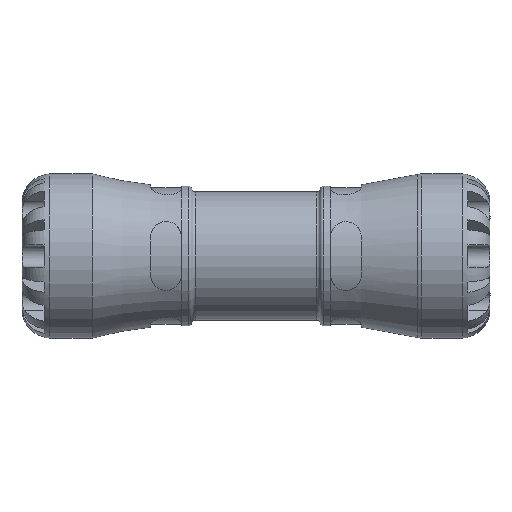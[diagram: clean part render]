
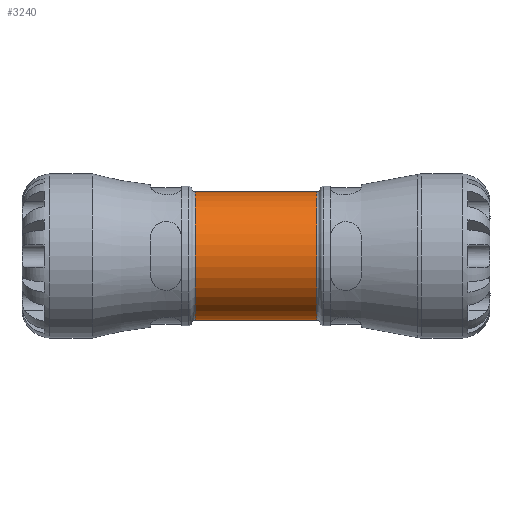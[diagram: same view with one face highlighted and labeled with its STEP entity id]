
A CAD part, front view. The second image highlights one B-rep face of the part: STEP entity #3240.
In plain terms, the highlighted cylindrical face has radius 18.33 mm (diameter 36.66 mm), a full revolution.
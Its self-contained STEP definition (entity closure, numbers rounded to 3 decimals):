
#467=FACE_BOUND('',#784,.T.);
#468=FACE_BOUND('',#785,.T.);
#510=CYLINDRICAL_SURFACE('',#3445,18.33);
#580=FACE_OUTER_BOUND('',#783,.T.);
#783=EDGE_LOOP('',(#2108));
#784=EDGE_LOOP('',(#2109));
#785=EDGE_LOOP('',(#2110));
#1026=B_SPLINE_CURVE_WITH_KNOTS('',3,(#4868,#4869,#4870,#4871,#4872,#4873,
#4874,#4875,#4876,#4877,#4878,#4879,#4880,#4881,#4882,#4883,#4884,#4885,
#4886,#4887,#4888,#4889),.UNSPECIFIED.,.T.,.F.,(4,1,1,1,1,1,1,1,1,1,1,1,
1,1,1,1,1,1,1,4),(-7.559,-7.289,-7.019,
-6.479,-5.94,-5.67,-5.4,
-4.86,-4.32,-3.96,-3.6,
-3.24,-2.88,-2.52,-2.16,
-1.62,-1.08,-0.54,-0.27,
0.),.UNSPECIFIED.);
#1158=CIRCLE('',#3446,18.33);
#1159=CIRCLE('',#3447,18.33);
#1331=VERTEX_POINT('',#4843);
#1334=VERTEX_POINT('',#4894);
#1335=VERTEX_POINT('',#4896);
#1638=EDGE_CURVE('',#1331,#1331,#1026,.T.);
#1640=EDGE_CURVE('',#1334,#1334,#1158,.T.);
#1641=EDGE_CURVE('',#1335,#1335,#1159,.T.);
#2108=ORIENTED_EDGE('',*,*,#1640,.F.);
#2109=ORIENTED_EDGE('',*,*,#1641,.F.);
#2110=ORIENTED_EDGE('',*,*,#1638,.F.);
#3240=ADVANCED_FACE('',(#580,#467,#468),#510,.T.);
#3445=AXIS2_PLACEMENT_3D('',#4893,#3826,#3827);
#3446=AXIS2_PLACEMENT_3D('',#4895,#3828,#3829);
#3447=AXIS2_PLACEMENT_3D('',#4897,#3830,#3831);
#3826=DIRECTION('center_axis',(1.,0.,0.));
#3827=DIRECTION('ref_axis',(0.,1.,0.));
#3828=DIRECTION('center_axis',(1.,0.,0.));
#3829=DIRECTION('ref_axis',(0.,1.,0.));
#3830=DIRECTION('center_axis',(-1.,0.,0.));
#3831=DIRECTION('ref_axis',(0.,1.,0.));
#4843=CARTESIAN_POINT('',(0.,13.133,-12.788));
#4868=CARTESIAN_POINT('Ctrl Pts',(0.,13.132,-12.788));
#4869=CARTESIAN_POINT('Ctrl Pts',(-1.125,13.132,-12.788));
#4870=CARTESIAN_POINT('Ctrl Pts',(-3.376,13.368,-12.553));
#4871=CARTESIAN_POINT('Ctrl Pts',(-7.45,14.545,-11.235));
#4872=CARTESIAN_POINT('Ctrl Pts',(-11.566,16.573,-8.345));
#4873=CARTESIAN_POINT('Ctrl Pts',(-14.071,18.083,-3.985));
#4874=CARTESIAN_POINT('Ctrl Pts',(-14.604,18.413,0.));
#4875=CARTESIAN_POINT('Ctrl Pts',(-14.072,18.083,3.985));
#4876=CARTESIAN_POINT('Ctrl Pts',(-11.563,16.571,8.341));
#4877=CARTESIAN_POINT('Ctrl Pts',(-7.181,14.414,11.427));
#4878=CARTESIAN_POINT('Ctrl Pts',(-2.309,13.091,12.836));
#4879=CARTESIAN_POINT('Ctrl Pts',(2.31,13.087,12.836));
#4880=CARTESIAN_POINT('Ctrl Pts',(6.486,14.223,11.632));
#4881=CARTESIAN_POINT('Ctrl Pts',(9.946,15.75,9.531));
#4882=CARTESIAN_POINT('Ctrl Pts',(12.616,17.206,6.628));
#4883=CARTESIAN_POINT('Ctrl Pts',(14.594,18.404,2.417));
#4884=CARTESIAN_POINT('Ctrl Pts',(14.587,18.398,-3.111));
#4885=CARTESIAN_POINT('Ctrl Pts',(11.558,16.565,-8.344));
#4886=CARTESIAN_POINT('Ctrl Pts',(7.453,14.548,-11.235));
#4887=CARTESIAN_POINT('Ctrl Pts',(3.374,13.367,-12.553));
#4888=CARTESIAN_POINT('Ctrl Pts',(1.125,13.132,-12.788));
#4889=CARTESIAN_POINT('Ctrl Pts',(0.,13.132,-12.788));
#4893=CARTESIAN_POINT('Origin',(9.165,0.,0.));
#4894=CARTESIAN_POINT('',(17.405,-18.33,0.));
#4895=CARTESIAN_POINT('Origin',(17.405,0.,0.));
#4896=CARTESIAN_POINT('',(-17.405,-18.33,0.));
#4897=CARTESIAN_POINT('Origin',(-17.405,0.,0.));
